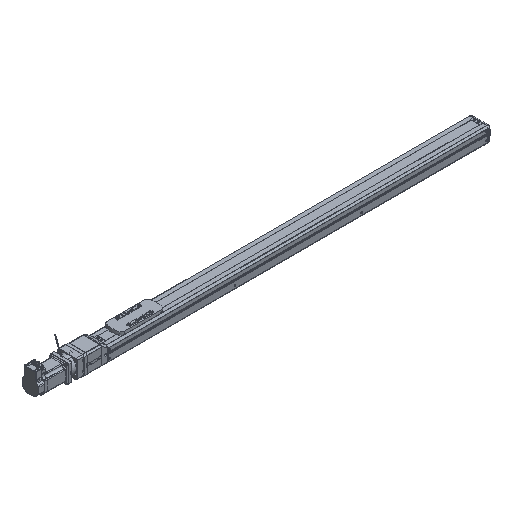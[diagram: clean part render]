
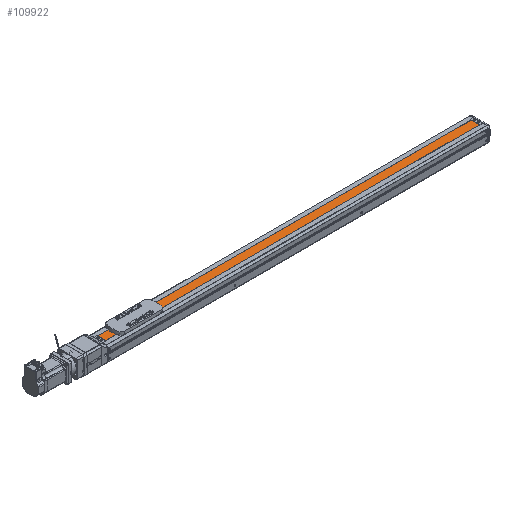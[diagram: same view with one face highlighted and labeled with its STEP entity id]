
A CAD part, isometric view. The second image highlights one B-rep face of the part: STEP entity #109922.
In plain terms, the highlighted planar face has unit normal (0, 0, 1) as drawn and (0, 1, 0) by its records, which use the part's own axes.
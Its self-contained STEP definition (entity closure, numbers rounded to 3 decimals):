
#109922 = ADVANCED_FACE('',(#109923),#109937,.T.);
#109923 = FACE_BOUND('',#109924,.T.);
#109924 = EDGE_LOOP('',(#109925,#109960,#109988,#110016));
#109925 = ORIENTED_EDGE('',*,*,#109926,.F.);
#109926 = EDGE_CURVE('',#109927,#109929,#109931,.T.);
#109927 = VERTEX_POINT('',#109928);
#109928 = CARTESIAN_POINT('',(-1230.5,18.,-13.));
#109929 = VERTEX_POINT('',#109930);
#109930 = CARTESIAN_POINT('',(-21.5,18.,-13.));
#109931 = SURFACE_CURVE('',#109932,(#109936,#109948),.PCURVE_S1.);
#109932 = LINE('',#109933,#109934);
#109933 = CARTESIAN_POINT('',(-1230.5,18.,-13.));
#109934 = VECTOR('',#109935,1.);
#109935 = DIRECTION('',(1.,0.,0.));
#109936 = PCURVE('',#109937,#109942);
#109937 = PLANE('',#109938);
#109938 = AXIS2_PLACEMENT_3D('',#109939,#109940,#109941);
#109939 = CARTESIAN_POINT('',(-1240.5,18.,-26.583));
#109940 = DIRECTION('',(0.,1.,0.));
#109941 = DIRECTION('',(0.,-0.,1.));
#109942 = DEFINITIONAL_REPRESENTATION('',(#109943),#109947);
#109943 = LINE('',#109944,#109945);
#109944 = CARTESIAN_POINT('',(13.583,10.));
#109945 = VECTOR('',#109946,1.);
#109946 = DIRECTION('',(0.,1.));
#109947 = ( GEOMETRIC_REPRESENTATION_CONTEXT(2) 
PARAMETRIC_REPRESENTATION_CONTEXT() REPRESENTATION_CONTEXT('2D SPACE',''
  ) );
#109948 = PCURVE('',#109949,#109954);
#109949 = PLANE('',#109950);
#109950 = AXIS2_PLACEMENT_3D('',#109951,#109952,#109953);
#109951 = CARTESIAN_POINT('',(-1230.5,18.,-13.));
#109952 = DIRECTION('',(0.,0.,1.));
#109953 = DIRECTION('',(1.,0.,-0.));
#109954 = DEFINITIONAL_REPRESENTATION('',(#109955),#109959);
#109955 = LINE('',#109956,#109957);
#109956 = CARTESIAN_POINT('',(0.,0.));
#109957 = VECTOR('',#109958,1.);
#109958 = DIRECTION('',(1.,0.));
#109959 = ( GEOMETRIC_REPRESENTATION_CONTEXT(2) 
PARAMETRIC_REPRESENTATION_CONTEXT() REPRESENTATION_CONTEXT('2D SPACE',''
  ) );
#109960 = ORIENTED_EDGE('',*,*,#109961,.T.);
#109961 = EDGE_CURVE('',#109927,#109962,#109964,.T.);
#109962 = VERTEX_POINT('',#109963);
#109963 = CARTESIAN_POINT('',(-1230.5,18.,13.));
#109964 = SURFACE_CURVE('',#109965,(#109969,#109976),.PCURVE_S1.);
#109965 = LINE('',#109966,#109967);
#109966 = CARTESIAN_POINT('',(-1230.5,18.,-26.583));
#109967 = VECTOR('',#109968,1.);
#109968 = DIRECTION('',(0.,0.,1.));
#109969 = PCURVE('',#109937,#109970);
#109970 = DEFINITIONAL_REPRESENTATION('',(#109971),#109975);
#109971 = LINE('',#109972,#109973);
#109972 = CARTESIAN_POINT('',(0.,10.));
#109973 = VECTOR('',#109974,1.);
#109974 = DIRECTION('',(1.,0.));
#109975 = ( GEOMETRIC_REPRESENTATION_CONTEXT(2) 
PARAMETRIC_REPRESENTATION_CONTEXT() REPRESENTATION_CONTEXT('2D SPACE',''
  ) );
#109976 = PCURVE('',#109977,#109982);
#109977 = PLANE('',#109978);
#109978 = AXIS2_PLACEMENT_3D('',#109979,#109980,#109981);
#109979 = CARTESIAN_POINT('',(-1230.5,0.,0.));
#109980 = DIRECTION('',(1.,0.,0.));
#109981 = DIRECTION('',(0.,0.,-1.));
#109982 = DEFINITIONAL_REPRESENTATION('',(#109983),#109987);
#109983 = LINE('',#109984,#109985);
#109984 = CARTESIAN_POINT('',(26.583,18.));
#109985 = VECTOR('',#109986,1.);
#109986 = DIRECTION('',(-1.,0.));
#109987 = ( GEOMETRIC_REPRESENTATION_CONTEXT(2) 
PARAMETRIC_REPRESENTATION_CONTEXT() REPRESENTATION_CONTEXT('2D SPACE',''
  ) );
#109988 = ORIENTED_EDGE('',*,*,#109989,.T.);
#109989 = EDGE_CURVE('',#109962,#109990,#109992,.T.);
#109990 = VERTEX_POINT('',#109991);
#109991 = CARTESIAN_POINT('',(-21.5,18.,13.));
#109992 = SURFACE_CURVE('',#109993,(#109997,#110004),.PCURVE_S1.);
#109993 = LINE('',#109994,#109995);
#109994 = CARTESIAN_POINT('',(-1230.5,18.,13.));
#109995 = VECTOR('',#109996,1.);
#109996 = DIRECTION('',(1.,0.,0.));
#109997 = PCURVE('',#109937,#109998);
#109998 = DEFINITIONAL_REPRESENTATION('',(#109999),#110003);
#109999 = LINE('',#110000,#110001);
#110000 = CARTESIAN_POINT('',(39.583,10.));
#110001 = VECTOR('',#110002,1.);
#110002 = DIRECTION('',(0.,1.));
#110003 = ( GEOMETRIC_REPRESENTATION_CONTEXT(2) 
PARAMETRIC_REPRESENTATION_CONTEXT() REPRESENTATION_CONTEXT('2D SPACE',''
  ) );
#110004 = PCURVE('',#110005,#110010);
#110005 = PLANE('',#110006);
#110006 = AXIS2_PLACEMENT_3D('',#110007,#110008,#110009);
#110007 = CARTESIAN_POINT('',(-1230.5,15.,13.));
#110008 = DIRECTION('',(0.,0.,-1.));
#110009 = DIRECTION('',(-1.,0.,0.));
#110010 = DEFINITIONAL_REPRESENTATION('',(#110011),#110015);
#110011 = LINE('',#110012,#110013);
#110012 = CARTESIAN_POINT('',(0.,3.));
#110013 = VECTOR('',#110014,1.);
#110014 = DIRECTION('',(-1.,0.));
#110015 = ( GEOMETRIC_REPRESENTATION_CONTEXT(2) 
PARAMETRIC_REPRESENTATION_CONTEXT() REPRESENTATION_CONTEXT('2D SPACE',''
  ) );
#110016 = ORIENTED_EDGE('',*,*,#110017,.T.);
#110017 = EDGE_CURVE('',#109990,#109929,#110018,.T.);
#110018 = SURFACE_CURVE('',#110019,(#110023,#110030),.PCURVE_S1.);
#110019 = LINE('',#110020,#110021);
#110020 = CARTESIAN_POINT('',(-21.5,18.,-26.583));
#110021 = VECTOR('',#110022,1.);
#110022 = DIRECTION('',(0.,0.,-1.));
#110023 = PCURVE('',#109937,#110024);
#110024 = DEFINITIONAL_REPRESENTATION('',(#110025),#110029);
#110025 = LINE('',#110026,#110027);
#110026 = CARTESIAN_POINT('',(0.,1219.));
#110027 = VECTOR('',#110028,1.);
#110028 = DIRECTION('',(-1.,0.));
#110029 = ( GEOMETRIC_REPRESENTATION_CONTEXT(2) 
PARAMETRIC_REPRESENTATION_CONTEXT() REPRESENTATION_CONTEXT('2D SPACE',''
  ) );
#110030 = PCURVE('',#110031,#110036);
#110031 = PLANE('',#110032);
#110032 = AXIS2_PLACEMENT_3D('',#110033,#110034,#110035);
#110033 = CARTESIAN_POINT('',(-21.5,0.,0.));
#110034 = DIRECTION('',(1.,0.,0.));
#110035 = DIRECTION('',(0.,0.,-1.));
#110036 = DEFINITIONAL_REPRESENTATION('',(#110037),#110041);
#110037 = LINE('',#110038,#110039);
#110038 = CARTESIAN_POINT('',(26.583,18.));
#110039 = VECTOR('',#110040,1.);
#110040 = DIRECTION('',(1.,0.));
#110041 = ( GEOMETRIC_REPRESENTATION_CONTEXT(2) 
PARAMETRIC_REPRESENTATION_CONTEXT() REPRESENTATION_CONTEXT('2D SPACE',''
  ) );
